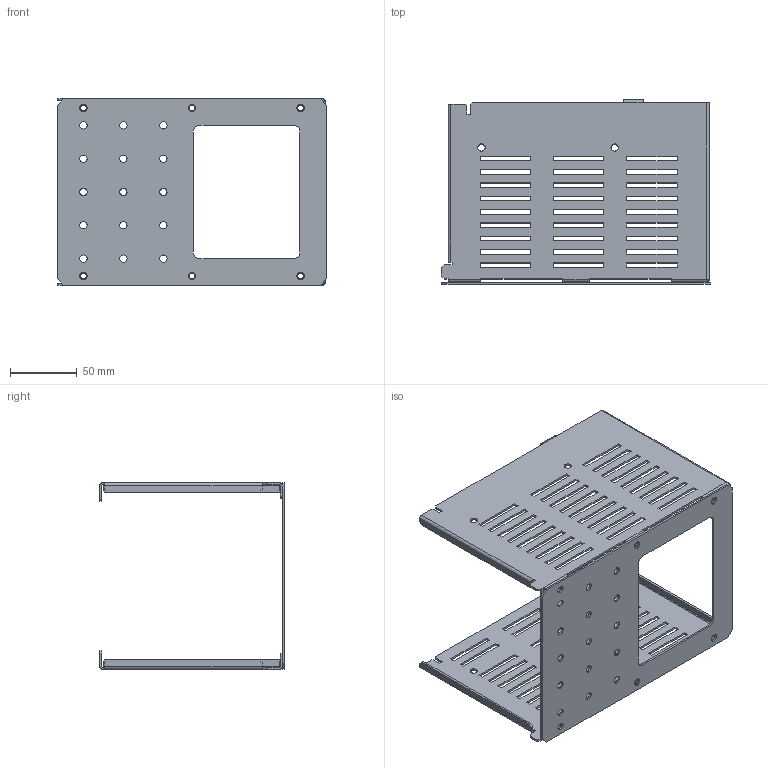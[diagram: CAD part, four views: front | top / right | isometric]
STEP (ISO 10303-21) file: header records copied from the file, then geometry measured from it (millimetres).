
FILE_DESCRIPTION(('CAx-IF Rec.Pracs.---Model Styling and Organization---1.2---2011-12-15','CAx-IF Rec.Pracs.---Geometric and Assembly Validation Properties---4.1---2014-06-16','CAx-IF Rec.Pracs.---PMI Polyline Presentation---2.0---2013-05-24'),'2;1');
FILE_NAME('R5M2W3MRT3C.stp','2021-05-05T13:05:05+03:00',(''),(''),'STEP Interface 4.4 by CT CoreTechnologie','3D_Evolution4.4 by CT CoreTechnologie','');
FILE_SCHEMA(('AUTOMOTIVE_DESIGN { 1 0 10303 214 1 1 1 1 }'));
Length unit declared in the file: millimetre
Products named in the file (4): R5M2W3MRT3C; RB.1465.00.00.0_-00; RB.1468.00.00.0_-01; RB.1465.00.00.0_-01
Assembly tree (3 placements, depth 2):
  R5M2W3MRT3C
    RB.1465.00.00.0_-00
    RB.1468.00.00.0_-01
    RB.1465.00.00.0_-01
Bounding box: 202 x 138.5 x 140 mm (x, y, z)
Surface area: 148155.8 mm2 (no closed solid volume)
Topology: 0 solids, 3 shells, 470 faces, 1375 edges, 911 vertices
Faces by surface type: plane 372, cylinder 94, bspline 4
Entity records: 16068 total; most frequent: CARTESIAN_POINT 2906, ORIENTED_EDGE 2750, DIRECTION 2493, EDGE_CURVE 1375, VECTOR 1185, LINE 1185, VERTEX_POINT 911, EDGE_LOOP 658
